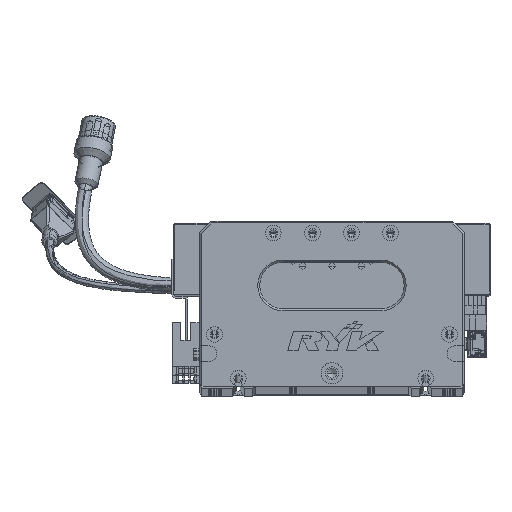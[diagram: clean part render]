
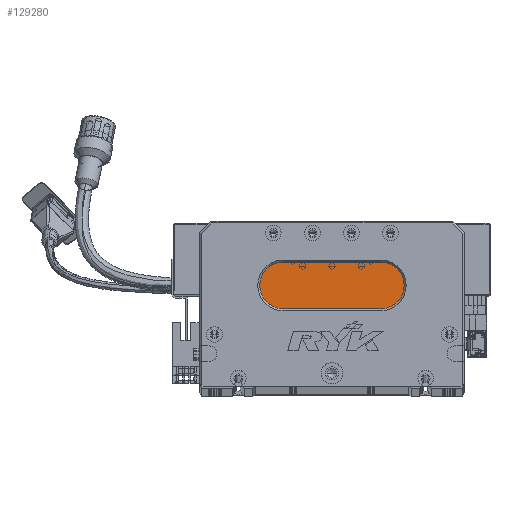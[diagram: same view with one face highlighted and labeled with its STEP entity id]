
A CAD part, top view. The second image highlights one B-rep face of the part: STEP entity #129280.
In plain terms, the highlighted planar face has unit normal (0, 0, 1) as drawn and (0, 0, -1) by its records, which use the part's own axes.
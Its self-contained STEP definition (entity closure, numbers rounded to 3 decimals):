
#3197 = VERTEX_POINT ( 'NONE', #34371 ) ;
#4592 = CARTESIAN_POINT ( 'NONE',  ( 93., 52., 13. ) ) ;
#6312 = EDGE_CURVE ( 'NONE', #49248, #12472, #26802, .T. ) ;
#6851 = VERTEX_POINT ( 'NONE', #107767 ) ;
#10810 = VERTEX_POINT ( 'NONE', #92176 ) ;
#11966 = LINE ( 'NONE', #129783, #115617 ) ;
#12472 = VERTEX_POINT ( 'NONE', #24133 ) ;
#13165 = AXIS2_PLACEMENT_3D ( 'NONE', #71821, #20896, #71413 ) ;
#13867 = ORIENTED_EDGE ( 'NONE', *, *, #26182, .T. ) ;
#14457 = FACE_OUTER_BOUND ( 'NONE', #22470, .T. ) ;
#20896 = DIRECTION ( 'NONE',  ( 0., 0., -1. ) ) ;
#22470 = EDGE_LOOP ( 'NONE', ( #73510, #83194, #49029, #111072, #13867 ) ) ;
#23825 = CIRCLE ( 'NONE', #64860, 12. ) ;
#24133 = CARTESIAN_POINT ( 'NONE',  ( 43., 40., 13. ) ) ;
#26182 = EDGE_CURVE ( 'NONE', #10810, #3197, #11966, .T. ) ;
#26802 = LINE ( 'NONE', #110099, #37797 ) ;
#30224 = AXIS2_PLACEMENT_3D ( 'NONE', #4592, #53441, #74851 ) ;
#34371 = CARTESIAN_POINT ( 'NONE',  ( 93., 64., 13. ) ) ;
#37797 = VECTOR ( 'NONE', #109661, 1000. ) ;
#45052 = CIRCLE ( 'NONE', #13165, 12. ) ;
#46512 = DIRECTION ( 'NONE',  ( 0., 0., -1. ) ) ;
#49029 = ORIENTED_EDGE ( 'NONE', *, *, #55369, .T. ) ;
#49158 = DIRECTION ( 'NONE',  ( -1., 0., 0. ) ) ;
#49248 = VERTEX_POINT ( 'NONE', #65176 ) ;
#51310 = AXIS2_PLACEMENT_3D ( 'NONE', #130216, #99067, #49158 ) ;
#53441 = DIRECTION ( 'NONE',  ( 0., 0., -1. ) ) ;
#55369 = EDGE_CURVE ( 'NONE', #12472, #6851, #45052, .T. ) ;
#57907 = DIRECTION ( 'NONE',  ( -1., 0., 0. ) ) ;
#62514 = CIRCLE ( 'NONE', #30224, 12. ) ;
#64860 = AXIS2_PLACEMENT_3D ( 'NONE', #87275, #46512, #57907 ) ;
#65176 = CARTESIAN_POINT ( 'NONE',  ( 93., 40., 13. ) ) ;
#69744 = DIRECTION ( 'NONE',  ( 1., 0., 0. ) ) ;
#71413 = DIRECTION ( 'NONE',  ( -1., 0., 0. ) ) ;
#71821 = CARTESIAN_POINT ( 'NONE',  ( 43., 52., 13. ) ) ;
#73510 = ORIENTED_EDGE ( 'NONE', *, *, #118242, .T. ) ;
#74851 = DIRECTION ( 'NONE',  ( -1., 0., 0. ) ) ;
#79808 = PLANE ( 'NONE',  #51310 ) ;
#83194 = ORIENTED_EDGE ( 'NONE', *, *, #6312, .T. ) ;
#87275 = CARTESIAN_POINT ( 'NONE',  ( 43., 52., 13. ) ) ;
#92176 = CARTESIAN_POINT ( 'NONE',  ( 43., 64., 13. ) ) ;
#99067 = DIRECTION ( 'NONE',  ( 0., 0., -1. ) ) ;
#99750 = EDGE_CURVE ( 'NONE', #6851, #10810, #23825, .T. ) ;
#107767 = CARTESIAN_POINT ( 'NONE',  ( 31., 52., 13. ) ) ;
#109661 = DIRECTION ( 'NONE',  ( -1., 0., 0. ) ) ;
#110099 = CARTESIAN_POINT ( 'NONE',  ( 93., 40., 13. ) ) ;
#111072 = ORIENTED_EDGE ( 'NONE', *, *, #99750, .T. ) ;
#115617 = VECTOR ( 'NONE', #69744, 1000. ) ;
#118242 = EDGE_CURVE ( 'NONE', #3197, #49248, #62514, .T. ) ;
#129280 = ADVANCED_FACE ( 'NONE', ( #14457 ), #79808, .T. ) ;
#129783 = CARTESIAN_POINT ( 'NONE',  ( 93., 64., 13. ) ) ;
#130216 = CARTESIAN_POINT ( 'NONE',  ( 93., 52., 13. ) ) ;
